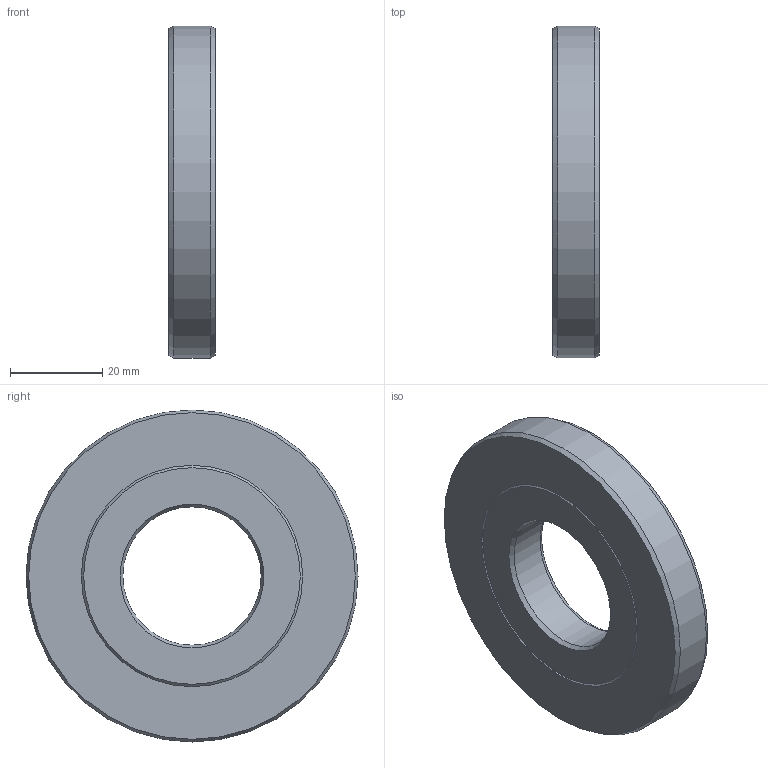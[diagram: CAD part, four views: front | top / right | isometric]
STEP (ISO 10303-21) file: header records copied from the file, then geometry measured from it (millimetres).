
FILE_DESCRIPTION(/* description */ (''),/* implementation_level */ '2;1');
FILE_NAME(/* name */ '301812 SA 30x72x10.stp',/* time_stamp */ '2016-12-16T15:21:20+01:00',/* author */ (''),/* organization */ (''),/* preprocessor_version */ 'ST-DEVELOPER v15',/* originating_system */ 'SIEMENS PLM Software NX 8.5',/* authorisation */ '');
FILE_SCHEMA (('CONFIG_CONTROL_DESIGN'));
Length unit declared in the file: millimetre
Products named in the file (1): ATE0000144_01
Bounding box: 10 x 72 x 72 mm (x, y, z)
Volume: 32492 mm3; surface area: 13951.2 mm2
Topology: 2 solids, 2 shells, 18 faces, 37 edges, 23 vertices
Faces by surface type: cone 10, plane 5, cylinder 3
Full cylindrical faces by diameter (mm): 30 x1, 72 x1
Entity records: 492 total; most frequent: DIRECTION 76, CARTESIAN_POINT 74, ORIENTED_EDGE 46, AXIS2_PLACEMENT_3D 38, EDGE_LOOP 33, FACE_BOUND 30, EDGE_CURVE 23, VERTEX_POINT 20
